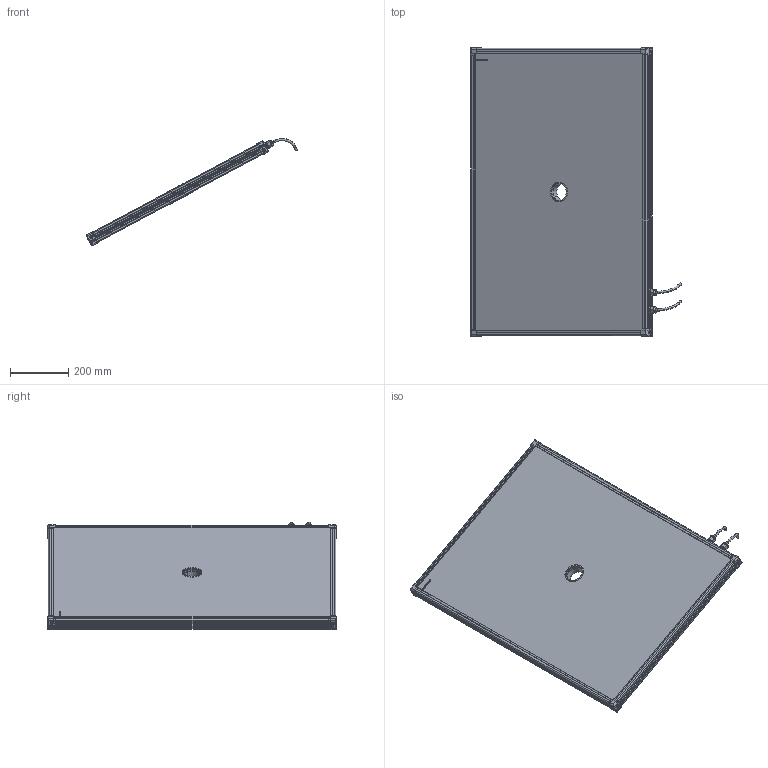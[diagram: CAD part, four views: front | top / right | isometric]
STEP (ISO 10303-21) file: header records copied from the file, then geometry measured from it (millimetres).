
FILE_DESCRIPTION (( 'STEP AP214' ), '1' );
FILE_NAME ('EFFI-FD-650-950-ZZZ-2M12P.STEP', '2021-06-21T10:03:12', ( '' ), ( '' ), 'SwSTEP 2.0', 'SolidWorks 2021', '' );
FILE_SCHEMA (( 'AUTOMOTIVE_DESIGN' ));
Length unit declared in the file: millimetre
Products named in the file (13): petite joue + vis; EFFI-FD-650-950-ZZZ-2M12P; 000590; petite joue; 001037; profile Y_PERCE; 000629; M12 power; profile X_PERCE; Assemblage Ø58.5; 001038; Pièce13^EFFI-FD-XXX-YYY-ZZZ (2 connecteurs) M12 POWER Ø58.5
Assembly tree (20 placements, depth 3):
  EFFI-FD-650-950-ZZZ-2M12P
    profile X_PERCE  x2
    profile Y_PERCE
    profile Y_PERCE
    Pièce13^EFFI-FD-XXX-YYY-ZZZ (2 connecteurs) M12 POWER Ø58.5
    petite joue + vis  x4
      petite joue
      000629
    M12 power  x2
    Assemblage Ø58.5
      001037
      001038
      000590  x3
Bounding box: 723.76 x 989 x 367.48 mm (x, y, z)
Volume: 23607771.8 mm3; surface area: 1882060.5 mm2
Topology: 22 solids, 28 shells, 4002 faces, 10650 edges, 6994 vertices
Faces by surface type: plane 2479, cylinder 737, bspline 591, cone 154, torus 33, sphere 8
Entity records: 56584 total; most frequent: CARTESIAN_POINT 22742, ORIENTED_EDGE 7114, DIRECTION 5810, EDGE_CURVE 3559, LINE 2478, VECTOR 2478, VERTEX_POINT 2341, AXIS2_PLACEMENT_3D 1666
